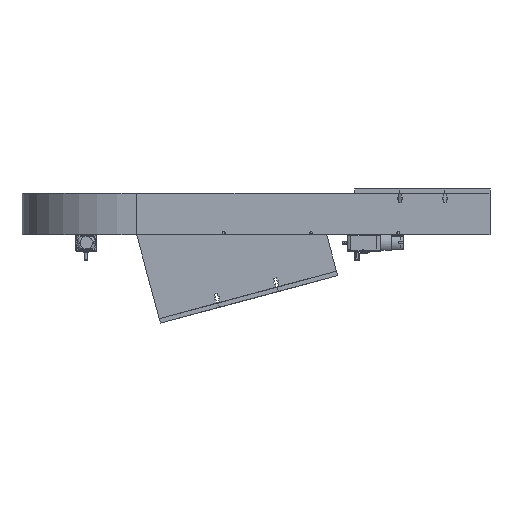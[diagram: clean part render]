
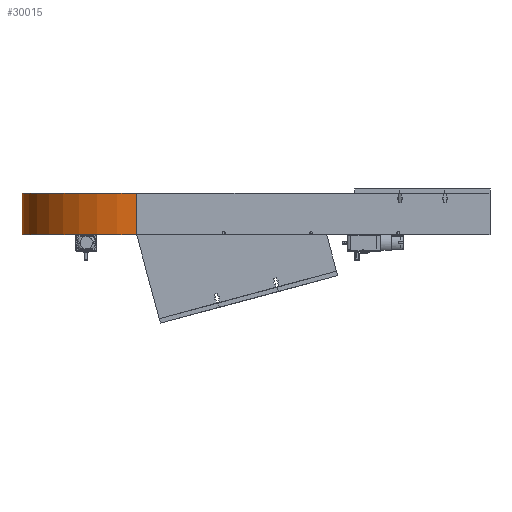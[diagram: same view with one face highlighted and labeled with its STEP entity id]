
A CAD part, left-side view. The second image highlights one B-rep face of the part: STEP entity #30015.
In plain terms, the highlighted cylindrical face has radius 125 mm (diameter 250 mm), a partial arc.
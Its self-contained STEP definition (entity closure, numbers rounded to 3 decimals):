
#1776 = DIRECTION ( 'NONE',  ( 0., 0., -1. ) ) ;
#2665 = AXIS2_PLACEMENT_3D ( 'NONE', #7160, #4798, #4899 ) ;
#2690 = CARTESIAN_POINT ( 'NONE',  ( 0., 0., 45. ) ) ;
#3408 = ORIENTED_EDGE ( 'NONE', *, *, #21531, .F. ) ;
#4113 = VERTEX_POINT ( 'NONE', #20600 ) ;
#4347 = VECTOR ( 'NONE', #1776, 1000. ) ;
#4798 = DIRECTION ( 'NONE',  ( 0., 0., -1. ) ) ;
#4899 = DIRECTION ( 'NONE',  ( 1., 0., 0. ) ) ;
#5090 = VERTEX_POINT ( 'NONE', #6080 ) ;
#6080 = CARTESIAN_POINT ( 'NONE',  ( -125., 0., 45. ) ) ;
#6564 = LINE ( 'NONE', #13255, #4347 ) ;
#7160 = CARTESIAN_POINT ( 'NONE',  ( 0., 0., 0. ) ) ;
#7430 = ORIENTED_EDGE ( 'NONE', *, *, #21276, .T. ) ;
#7440 = VECTOR ( 'NONE', #7661, 1000. ) ;
#7551 = DIRECTION ( 'NONE',  ( 1., 0., 0. ) ) ;
#7661 = DIRECTION ( 'NONE',  ( 0., 0., -1. ) ) ;
#10636 = CARTESIAN_POINT ( 'NONE',  ( 0., 125., 45. ) ) ;
#11225 = CYLINDRICAL_SURFACE ( 'NONE', #28731, 125. ) ;
#12298 = EDGE_LOOP ( 'NONE', ( #3408, #23582, #7430, #16908 ) ) ;
#13154 = CARTESIAN_POINT ( 'NONE',  ( 0., 0., 45. ) ) ;
#13255 = CARTESIAN_POINT ( 'NONE',  ( -125., 0., 45. ) ) ;
#14927 = CARTESIAN_POINT ( 'NONE',  ( 0., 125., 0. ) ) ;
#15197 = VERTEX_POINT ( 'NONE', #14927 ) ;
#15842 = VERTEX_POINT ( 'NONE', #10636 ) ;
#16667 = CARTESIAN_POINT ( 'NONE',  ( 0., 125., 45. ) ) ;
#16908 = ORIENTED_EDGE ( 'NONE', *, *, #23135, .T. ) ;
#17227 = EDGE_CURVE ( 'NONE', #5090, #4113, #6564, .T. ) ;
#19119 = DIRECTION ( 'NONE',  ( 0., 0., -1. ) ) ;
#20600 = CARTESIAN_POINT ( 'NONE',  ( -125., 0., 0. ) ) ;
#21276 = EDGE_CURVE ( 'NONE', #5090, #15842, #29750, .T. ) ;
#21531 = EDGE_CURVE ( 'NONE', #4113, #15197, #25351, .T. ) ;
#22299 = DIRECTION ( 'NONE',  ( -1., 0., 0. ) ) ;
#23042 = AXIS2_PLACEMENT_3D ( 'NONE', #2690, #19119, #7551 ) ;
#23135 = EDGE_CURVE ( 'NONE', #15842, #15197, #23788, .T. ) ;
#23582 = ORIENTED_EDGE ( 'NONE', *, *, #17227, .F. ) ;
#23788 = LINE ( 'NONE', #16667, #7440 ) ;
#25351 = CIRCLE ( 'NONE', #2665, 125. ) ;
#27204 = FACE_OUTER_BOUND ( 'NONE', #12298, .T. ) ;
#28731 = AXIS2_PLACEMENT_3D ( 'NONE', #13154, #29397, #22299 ) ;
#29397 = DIRECTION ( 'NONE',  ( 0., 0., -1. ) ) ;
#29750 = CIRCLE ( 'NONE', #23042, 125. ) ;
#30015 = ADVANCED_FACE ( 'NONE', ( #27204 ), #11225, .T. ) ;
